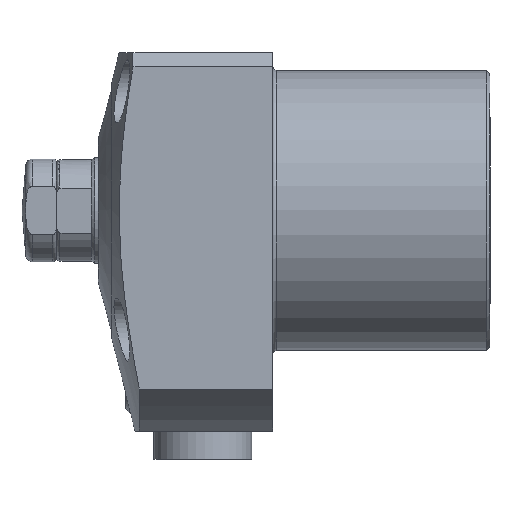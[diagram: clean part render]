
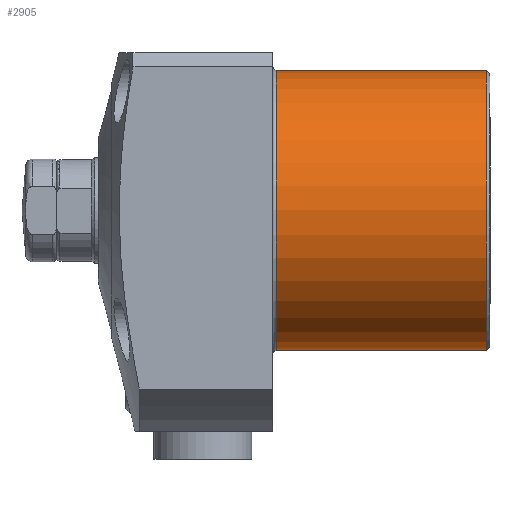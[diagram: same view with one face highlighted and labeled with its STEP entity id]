
A CAD part, left-side view. The second image highlights one B-rep face of the part: STEP entity #2905.
In plain terms, the highlighted cylindrical face has radius 20 mm (diameter 40 mm), a full revolution.
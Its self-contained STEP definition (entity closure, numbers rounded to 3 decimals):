
#2905=ADVANCED_FACE('',(#3307,#3308),#3182,.T.);
#3182=CYLINDRICAL_SURFACE('',#6806,20.);
#3307=FACE_BOUND('',#3594,.T.);
#3308=FACE_BOUND('',#3595,.T.);
#3594=EDGE_LOOP('',(#4180));
#3595=EDGE_LOOP('',(#4181));
#4180=ORIENTED_EDGE('',*,*,#5960,.F.);
#4181=ORIENTED_EDGE('',*,*,#5961,.T.);
#5438=VERTEX_POINT('',#9055);
#5439=VERTEX_POINT('',#9057);
#5960=EDGE_CURVE('',#5438,#5438,#6586,.T.);
#5961=EDGE_CURVE('',#5439,#5439,#6587,.T.);
#6586=CIRCLE('',#6804,20.);
#6587=CIRCLE('',#6805,20.);
#6804=AXIS2_PLACEMENT_3D('',#9054,#7406,#7407);
#6805=AXIS2_PLACEMENT_3D('',#9056,#7408,#7409);
#6806=AXIS2_PLACEMENT_3D('',#9058,#7410,#7411);
#7406=DIRECTION('',(0.,-1.,0.));
#7407=DIRECTION('',(0.,0.,-1.));
#7408=DIRECTION('',(0.,-1.,0.));
#7409=DIRECTION('',(0.,0.,-1.));
#7410=DIRECTION('',(0.,-1.,0.));
#7411=DIRECTION('',(0.,0.,1.));
#9054=CARTESIAN_POINT('',(6.063,-28.239,58.5));
#9055=CARTESIAN_POINT('',(6.063,-28.239,38.5));
#9056=CARTESIAN_POINT('',(6.063,1.761,58.5));
#9057=CARTESIAN_POINT('',(6.063,1.761,38.5));
#9058=CARTESIAN_POINT('',(6.063,-31.251,58.5));
